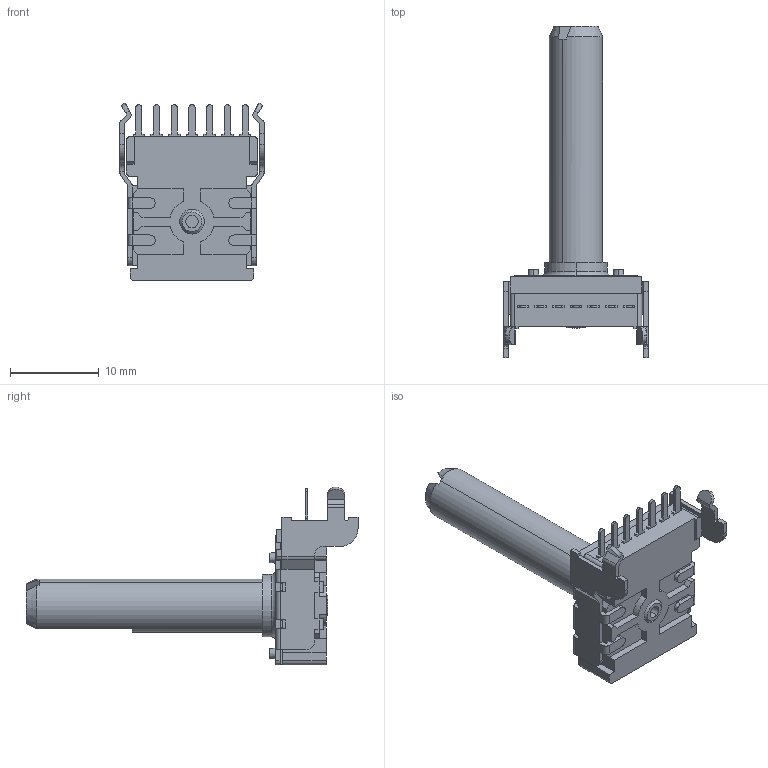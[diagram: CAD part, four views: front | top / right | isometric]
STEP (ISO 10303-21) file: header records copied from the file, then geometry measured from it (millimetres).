
FILE_DESCRIPTION (( 'STEP AP203' ), '1' );
FILE_NAME ('P140KV-F35.STEP', '2026-09-15T14:59:40', ( '' ), ( '' ), 'SwSTEP 2.0', 'SolidWorks 2026', '' );
FILE_SCHEMA (( 'CONFIG_CONTROL_DESIGN' ));
Length unit declared in the file: millimetre
Products named in the file (7): Housing; KV bracket; P140KV-F35; spring_plate; F35; KV_housing; H-terminal
Assembly tree (12 placements, depth 3):
  P140KV-F35
    KV_housing
      Housing
      H-terminal  x7
    F35
    spring_plate
    KV bracket
Bounding box: 16.3 x 37.5 x 20.1 mm (x, y, z)
Volume: 1715.9 mm3; surface area: 2921.5 mm2
Topology: 11 solids, 11 shells, 522 faces, 1435 edges, 936 vertices
Faces by surface type: plane 360, cylinder 140, cone 8, bspline 8, torus 6
Entity records: 15800 total; most frequent: CARTESIAN_POINT 2797, ORIENTED_EDGE 2582, DIRECTION 2473, EDGE_CURVE 1291, LINE 961, VECTOR 961, VERTEX_POINT 840, AXIS2_PLACEMENT_3D 756
